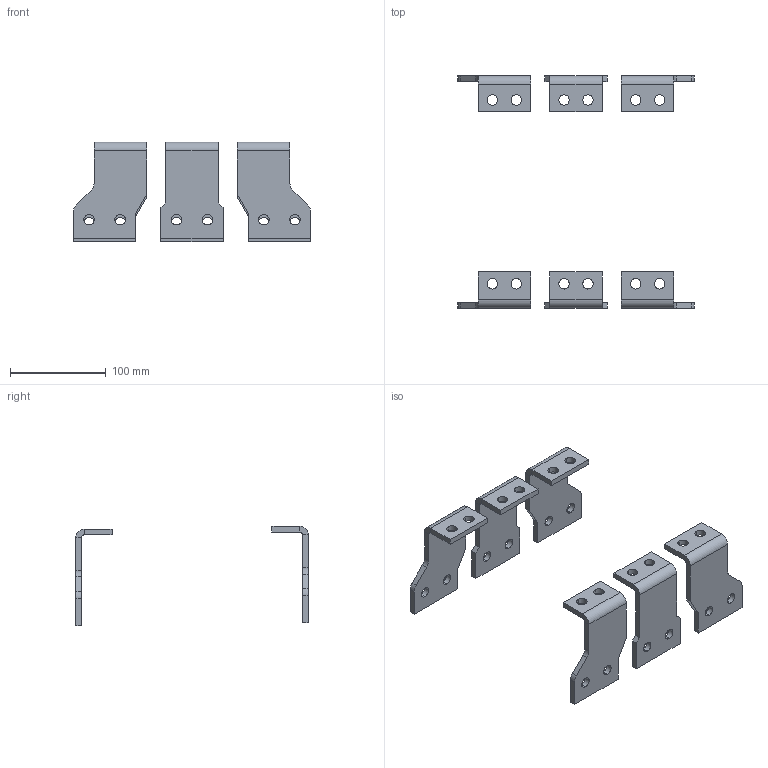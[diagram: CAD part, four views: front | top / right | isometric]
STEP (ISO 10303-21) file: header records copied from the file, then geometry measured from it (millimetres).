
FILE_DESCRIPTION (( 'STEP AP214' ), '1' );
FILE_NAME ('ÂÀ57-39 âûâîäû äëÿ çàäíåãî ïðèñîåäèíåíèÿ (3).STEP', '2023-08-07T11:08:58', ( '' ), ( '' ), 'SwSTEP 2.0', 'SolidWorks 2018', '' );
FILE_SCHEMA (( 'AUTOMOTIVE_DESIGN' ));
Length unit declared in the file: millimetre
Products named in the file (1): ÂÀ57-39 âûâîäû äëÿ çàäíåãî ïðèñîåäèíåíèÿ (3)
Bounding box: 248 x 243.4 x 104 mm (x, y, z)
Volume: 260982.9 mm3; surface area: 105997.9 mm2
Topology: 6 solids, 6 shells, 164 faces, 408 edges, 256 vertices
Faces by surface type: plane 96, cylinder 68
Entity records: 6823 total; most frequent: DIRECTION 874, CARTESIAN_POINT 829, ORIENTED_EDGE 816, EDGE_CURVE 408, AXIS2_PLACEMENT_3D 301, VECTOR 272, LINE 272, VERTEX_POINT 256
